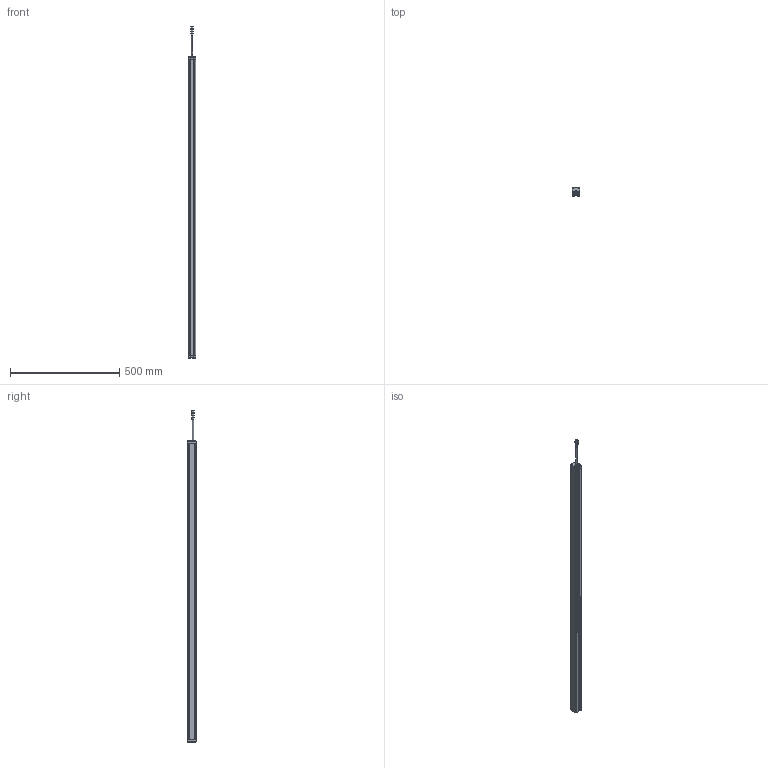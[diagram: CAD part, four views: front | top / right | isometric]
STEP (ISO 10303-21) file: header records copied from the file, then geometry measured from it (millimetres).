
FILE_DESCRIPTION((''),'2;1');
FILE_NAME('PRT0034','2026-03-31T13:45:01',('Administrator'),(''),'CREO PARAMETRIC BY PTC INC, 2016510','CREO PARAMETRIC BY PTC INC, 2016510','');
FILE_SCHEMA(('AUTOMOTIVE_DESIGN { 1 0 10303 214 1 1 1 1 }'));
Length unit declared in the file: millimetre
Products named in the file (1): PRT0034
Bounding box: 33 x 38 x 1521.9 mm (x, y, z)
Surface area: 300920.8 mm2 (no closed solid volume)
Topology: 0 solids, 12 shells, 812 faces, 2139 edges, 1346 vertices
Faces by surface type: plane 384, cylinder 233, extrusion 88, sphere 40, torus 35, cone 28, bspline 4
Entity records: 31810 total; most frequent: CARTESIAN_POINT 5979, ORIENTED_EDGE 4174, DIRECTION 3959, EDGE_CURVE 2087, AXIS2_PLACEMENT_3D 1346, VERTEX_POINT 1346, VECTOR 1267, LINE 1179
